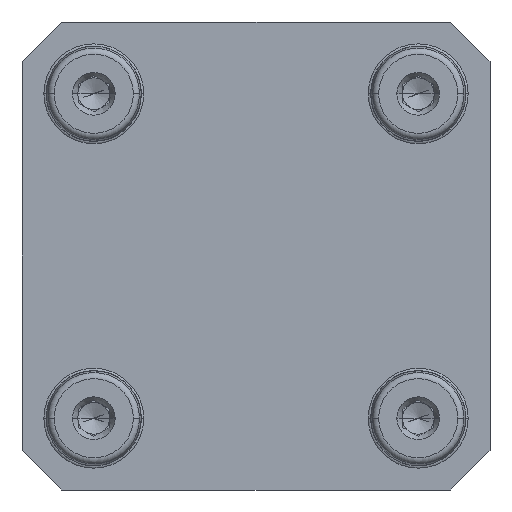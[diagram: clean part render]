
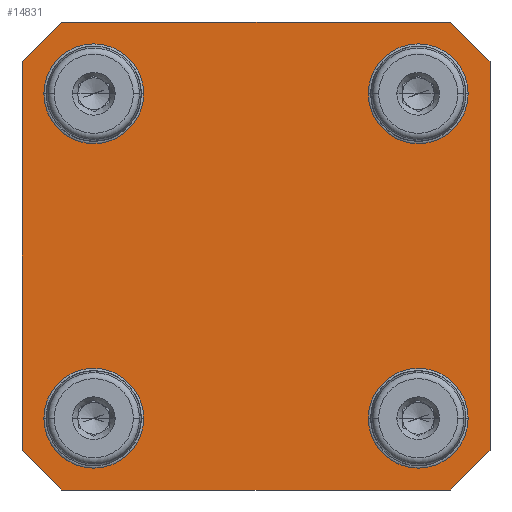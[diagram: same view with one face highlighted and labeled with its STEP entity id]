
A CAD part, front view. The second image highlights one B-rep face of the part: STEP entity #14831.
In plain terms, the highlighted planar face has unit normal (0, -1, 0).
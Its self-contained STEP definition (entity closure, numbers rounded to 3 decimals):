
#401 = DIRECTION ( 'NONE',  ( 0., 0., 1. ) ) ;
#411 = AXIS2_PLACEMENT_3D ( 'NONE', #11089, #28021, #13576 ) ;
#616 = LINE ( 'NONE', #6280, #7122 ) ;
#645 = VERTEX_POINT ( 'NONE', #27484 ) ;
#923 = VERTEX_POINT ( 'NONE', #1119 ) ;
#953 = CARTESIAN_POINT ( 'NONE',  ( 31.15, 0., 37.5 ) ) ;
#996 = ORIENTED_EDGE ( 'NONE', *, *, #999, .T. ) ;
#999 = EDGE_CURVE ( 'NONE', #25002, #7437, #3068, .T. ) ;
#1077 = CARTESIAN_POINT ( 'NONE',  ( -34.325, 0., -34.325 ) ) ;
#1119 = CARTESIAN_POINT ( 'NONE',  ( 37.5, 0., 31.15 ) ) ;
#1259 = EDGE_CURVE ( 'NONE', #923, #9335, #16030, .T. ) ;
#1384 = DIRECTION ( 'NONE',  ( 0., -1., 0. ) ) ;
#1497 = LINE ( 'NONE', #26975, #17943 ) ;
#2122 = AXIS2_PLACEMENT_3D ( 'NONE', #16045, #1384, #18470 ) ;
#2286 = VECTOR ( 'NONE', #24962, 1000. ) ;
#2440 = CARTESIAN_POINT ( 'NONE',  ( 26., 0., 26. ) ) ;
#2475 = CARTESIAN_POINT ( 'NONE',  ( -37.5, 0., 31.15 ) ) ;
#2874 = FACE_OUTER_BOUND ( 'NONE', #7849, .T. ) ;
#3041 = CARTESIAN_POINT ( 'NONE',  ( -37.5, 0., -37.5 ) ) ;
#3068 = LINE ( 'NONE', #14192, #9563 ) ;
#3238 = EDGE_CURVE ( 'NONE', #28065, #12766, #3267, .T. ) ;
#3267 = CIRCLE ( 'NONE', #411, 6.008 ) ;
#3492 = AXIS2_PLACEMENT_3D ( 'NONE', #5641, #22697, #8096 ) ;
#3551 = DIRECTION ( 'NONE',  ( 0., -1., 0. ) ) ;
#3819 = ORIENTED_EDGE ( 'NONE', *, *, #5079, .F. ) ;
#4084 = CARTESIAN_POINT ( 'NONE',  ( 26., 0., -26. ) ) ;
#4665 = ORIENTED_EDGE ( 'NONE', *, *, #11186, .F. ) ;
#4790 = ORIENTED_EDGE ( 'NONE', *, *, #1259, .F. ) ;
#4907 = DIRECTION ( 'NONE',  ( 0., 0., 1. ) ) ;
#5021 = LINE ( 'NONE', #18631, #23696 ) ;
#5079 = EDGE_CURVE ( 'NONE', #28284, #7437, #5021, .T. ) ;
#5600 = EDGE_CURVE ( 'NONE', #28284, #31493, #20443, .T. ) ;
#5641 = CARTESIAN_POINT ( 'NONE',  ( -26., 0., -26. ) ) ;
#5852 = ORIENTED_EDGE ( 'NONE', *, *, #3238, .F. ) ;
#6249 = VERTEX_POINT ( 'NONE', #24530 ) ;
#6280 = CARTESIAN_POINT ( 'NONE',  ( 34.325, 0., -34.325 ) ) ;
#6533 = DIRECTION ( 'NONE',  ( 0., 0., -1. ) ) ;
#6857 = CARTESIAN_POINT ( 'NONE',  ( -26., 0., 19.992 ) ) ;
#7122 = VECTOR ( 'NONE', #18118, 1000. ) ;
#7437 = VERTEX_POINT ( 'NONE', #2475 ) ;
#7849 = EDGE_LOOP ( 'NONE', ( #4790, #8035, #8172, #996, #3819, #29335, #16185, #25614 ) ) ;
#8035 = ORIENTED_EDGE ( 'NONE', *, *, #11916, .T. ) ;
#8096 = DIRECTION ( 'NONE',  ( 0., 0., 1. ) ) ;
#8172 = ORIENTED_EDGE ( 'NONE', *, *, #17616, .F. ) ;
#8239 = VECTOR ( 'NONE', #30285, 1000. ) ;
#8348 = EDGE_CURVE ( 'NONE', #645, #9335, #616, .T. ) ;
#8996 = AXIS2_PLACEMENT_3D ( 'NONE', #16275, #11485, #28399 ) ;
#9335 = VERTEX_POINT ( 'NONE', #13862 ) ;
#9370 = FACE_BOUND ( 'NONE', #14700, .T. ) ;
#9537 = VECTOR ( 'NONE', #17799, 1000. ) ;
#9563 = VECTOR ( 'NONE', #16634, 1000. ) ;
#9723 = CARTESIAN_POINT ( 'NONE',  ( -26., 0., -32.008 ) ) ;
#9937 = VECTOR ( 'NONE', #14037, 1000. ) ;
#10033 = DIRECTION ( 'NONE',  ( 1., 0., 0. ) ) ;
#10145 = EDGE_LOOP ( 'NONE', ( #28064, #23320 ) ) ;
#10306 = VERTEX_POINT ( 'NONE', #11358 ) ;
#10443 = CARTESIAN_POINT ( 'NONE',  ( 37.5, 0., 37.5 ) ) ;
#10604 = EDGE_CURVE ( 'NONE', #24294, #28953, #30066, .T. ) ;
#10947 = CIRCLE ( 'NONE', #2122, 6.008 ) ;
#11089 = CARTESIAN_POINT ( 'NONE',  ( 26., 0., -26. ) ) ;
#11109 = LINE ( 'NONE', #3041, #2286 ) ;
#11186 = EDGE_CURVE ( 'NONE', #28953, #24294, #21409, .T. ) ;
#11358 = CARTESIAN_POINT ( 'NONE',  ( 26., 0., 32.008 ) ) ;
#11485 = DIRECTION ( 'NONE',  ( 0., -1., 0. ) ) ;
#11578 = CARTESIAN_POINT ( 'NONE',  ( 34.325, 0., 34.325 ) ) ;
#11713 = AXIS2_PLACEMENT_3D ( 'NONE', #4084, #21125, #6533 ) ;
#11883 = CARTESIAN_POINT ( 'NONE',  ( -26., 0., 32.008 ) ) ;
#11916 = EDGE_CURVE ( 'NONE', #923, #27231, #28505, .T. ) ;
#12199 = EDGE_LOOP ( 'NONE', ( #5852, #24270 ) ) ;
#12766 = VERTEX_POINT ( 'NONE', #14844 ) ;
#13576 = DIRECTION ( 'NONE',  ( 0., 0., -1. ) ) ;
#13615 = CARTESIAN_POINT ( 'NONE',  ( -26., 0., 26. ) ) ;
#13862 = CARTESIAN_POINT ( 'NONE',  ( 37.5, 0., -31.15 ) ) ;
#14037 = DIRECTION ( 'NONE',  ( -0.707, 0., 0.707 ) ) ;
#14192 = CARTESIAN_POINT ( 'NONE',  ( -34.325, 0., 34.325 ) ) ;
#14700 = EDGE_LOOP ( 'NONE', ( #20887, #22362 ) ) ;
#14831 = ADVANCED_FACE ( 'NONE', ( #28693, #22343, #15866, #9370, #2874 ), #18714, .T. ) ;
#14844 = CARTESIAN_POINT ( 'NONE',  ( 26., 0., -19.992 ) ) ;
#15085 = ORIENTED_EDGE ( 'NONE', *, *, #10604, .F. ) ;
#15087 = DIRECTION ( 'NONE',  ( 0., -1., 0. ) ) ;
#15773 = EDGE_CURVE ( 'NONE', #18931, #28790, #22635, .T. ) ;
#15866 = FACE_BOUND ( 'NONE', #10145, .T. ) ;
#16030 = LINE ( 'NONE', #10443, #9537 ) ;
#16045 = CARTESIAN_POINT ( 'NONE',  ( -26., 0., 26. ) ) ;
#16053 = DIRECTION ( 'NONE',  ( 0., 0., -1. ) ) ;
#16185 = ORIENTED_EDGE ( 'NONE', *, *, #26552, .F. ) ;
#16275 = CARTESIAN_POINT ( 'NONE',  ( 0., 0., 0. ) ) ;
#16634 = DIRECTION ( 'NONE',  ( -0.707, 0., -0.707 ) ) ;
#17616 = EDGE_CURVE ( 'NONE', #25002, #27231, #1497, .T. ) ;
#17757 = EDGE_LOOP ( 'NONE', ( #4665, #15085 ) ) ;
#17799 = DIRECTION ( 'NONE',  ( 0., 0., -1. ) ) ;
#17943 = VECTOR ( 'NONE', #10033, 1000. ) ;
#18118 = DIRECTION ( 'NONE',  ( 0.707, 0., 0.707 ) ) ;
#18155 = CARTESIAN_POINT ( 'NONE',  ( -26., 0., -26. ) ) ;
#18470 = DIRECTION ( 'NONE',  ( 0., 0., -1. ) ) ;
#18631 = CARTESIAN_POINT ( 'NONE',  ( -37.5, 0., 37.5 ) ) ;
#18714 = PLANE ( 'NONE',  #8996 ) ;
#18737 = CARTESIAN_POINT ( 'NONE',  ( -37.5, 0., -31.15 ) ) ;
#18931 = VERTEX_POINT ( 'NONE', #6857 ) ;
#19055 = EDGE_CURVE ( 'NONE', #10306, #6249, #23632, .T. ) ;
#19534 = DIRECTION ( 'NONE',  ( 0., -1., 0. ) ) ;
#19546 = CARTESIAN_POINT ( 'NONE',  ( -31.15, 0., 37.5 ) ) ;
#19639 = AXIS2_PLACEMENT_3D ( 'NONE', #2440, #19534, #4907 ) ;
#19983 = EDGE_CURVE ( 'NONE', #12766, #28065, #20161, .T. ) ;
#20161 = CIRCLE ( 'NONE', #11713, 6.008 ) ;
#20443 = LINE ( 'NONE', #1077, #8239 ) ;
#20598 = DIRECTION ( 'NONE',  ( 0., 0., 1. ) ) ;
#20887 = ORIENTED_EDGE ( 'NONE', *, *, #15773, .F. ) ;
#21125 = DIRECTION ( 'NONE',  ( 0., -1., 0. ) ) ;
#21409 = CIRCLE ( 'NONE', #3492, 6.008 ) ;
#22343 = FACE_BOUND ( 'NONE', #12199, .T. ) ;
#22362 = ORIENTED_EDGE ( 'NONE', *, *, #23370, .F. ) ;
#22635 = CIRCLE ( 'NONE', #29913, 6.008 ) ;
#22697 = DIRECTION ( 'NONE',  ( 0., -1., 0. ) ) ;
#23320 = ORIENTED_EDGE ( 'NONE', *, *, #19055, .F. ) ;
#23370 = EDGE_CURVE ( 'NONE', #28790, #18931, #10947, .T. ) ;
#23632 = CIRCLE ( 'NONE', #19639, 6.008 ) ;
#23663 = EDGE_CURVE ( 'NONE', #6249, #10306, #30985, .T. ) ;
#23696 = VECTOR ( 'NONE', #30740, 1000. ) ;
#24270 = ORIENTED_EDGE ( 'NONE', *, *, #19983, .F. ) ;
#24294 = VERTEX_POINT ( 'NONE', #26522 ) ;
#24530 = CARTESIAN_POINT ( 'NONE',  ( 26., 0., 19.992 ) ) ;
#24885 = AXIS2_PLACEMENT_3D ( 'NONE', #18155, #3551, #20598 ) ;
#24898 = CARTESIAN_POINT ( 'NONE',  ( 26., 0., -32.008 ) ) ;
#24962 = DIRECTION ( 'NONE',  ( -1., 0., 0. ) ) ;
#25002 = VERTEX_POINT ( 'NONE', #19546 ) ;
#25614 = ORIENTED_EDGE ( 'NONE', *, *, #8348, .T. ) ;
#25996 = AXIS2_PLACEMENT_3D ( 'NONE', #29523, #15087, #401 ) ;
#26522 = CARTESIAN_POINT ( 'NONE',  ( -26., 0., -19.992 ) ) ;
#26552 = EDGE_CURVE ( 'NONE', #645, #31493, #11109, .T. ) ;
#26975 = CARTESIAN_POINT ( 'NONE',  ( -37.5, 0., 37.5 ) ) ;
#27231 = VERTEX_POINT ( 'NONE', #953 ) ;
#27484 = CARTESIAN_POINT ( 'NONE',  ( 31.15, 0., -37.5 ) ) ;
#28021 = DIRECTION ( 'NONE',  ( 0., -1., 0. ) ) ;
#28065 = VERTEX_POINT ( 'NONE', #24898 ) ;
#28064 = ORIENTED_EDGE ( 'NONE', *, *, #23663, .F. ) ;
#28284 = VERTEX_POINT ( 'NONE', #18737 ) ;
#28399 = DIRECTION ( 'NONE',  ( 0., 0., -1. ) ) ;
#28505 = LINE ( 'NONE', #11578, #9937 ) ;
#28693 = FACE_BOUND ( 'NONE', #17757, .T. ) ;
#28790 = VERTEX_POINT ( 'NONE', #11883 ) ;
#28953 = VERTEX_POINT ( 'NONE', #9723 ) ;
#29335 = ORIENTED_EDGE ( 'NONE', *, *, #5600, .T. ) ;
#29523 = CARTESIAN_POINT ( 'NONE',  ( 26., 0., 26. ) ) ;
#29913 = AXIS2_PLACEMENT_3D ( 'NONE', #13615, #30478, #16053 ) ;
#30066 = CIRCLE ( 'NONE', #24885, 6.008 ) ;
#30285 = DIRECTION ( 'NONE',  ( 0.707, 0., -0.707 ) ) ;
#30405 = CARTESIAN_POINT ( 'NONE',  ( -31.15, 0., -37.5 ) ) ;
#30478 = DIRECTION ( 'NONE',  ( 0., -1., 0. ) ) ;
#30740 = DIRECTION ( 'NONE',  ( 0., 0., 1. ) ) ;
#30985 = CIRCLE ( 'NONE', #25996, 6.008 ) ;
#31493 = VERTEX_POINT ( 'NONE', #30405 ) ;
